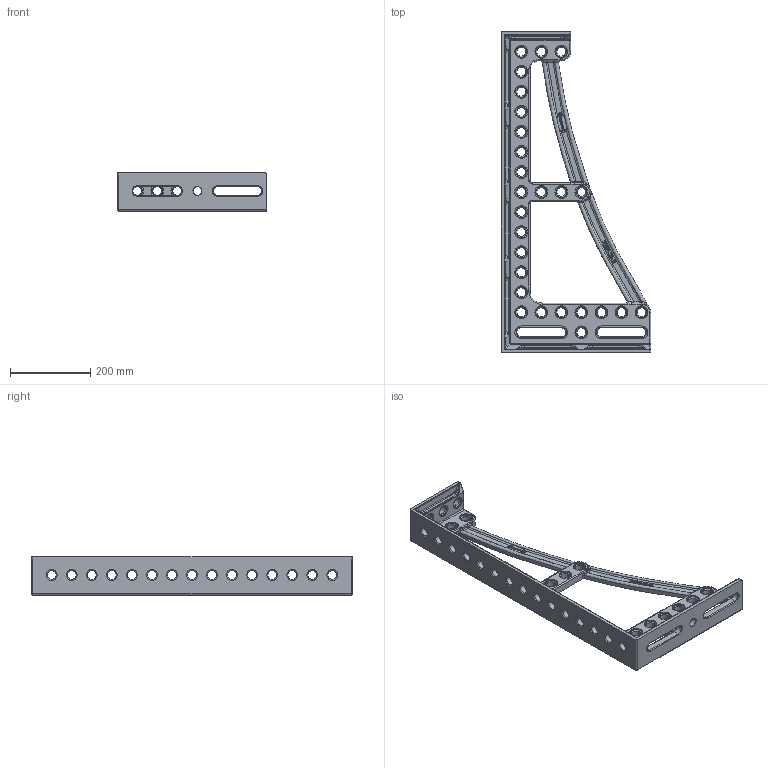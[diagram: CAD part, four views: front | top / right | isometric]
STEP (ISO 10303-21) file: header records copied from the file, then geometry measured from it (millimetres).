
FILE_DESCRIPTION (( 'STEP AP203' ), '1' );
FILE_NAME ('220146.STEP', '2020-03-02T10:43:12', ( '' ), ( '' ), 'SwSTEP 2.0', 'SolidWorks 2019', '' );
FILE_SCHEMA (( 'CONFIG_CONTROL_DESIGN' ));
Length unit declared in the file: millimetre
Products named in the file (1): 220146
Bounding box: 373 x 800 x 95 mm (x, y, z)
Volume: 3551781.2 mm3; surface area: 548547.7 mm2
Topology: 1 solids, 1 shells, 1081 faces, 2634 edges, 1602 vertices
Faces by surface type: cylinder 333, bspline 299, plane 215, torus 136, cone 90, sphere 8
Entity records: 44758 total; most frequent: CARTESIAN_POINT 20774, ORIENTED_EDGE 5220, DIRECTION 4617, EDGE_CURVE 2610, AXIS2_PLACEMENT_3D 1825, VERTEX_POINT 1602, EDGE_LOOP 1254, FACE_OUTER_BOUND 1081
